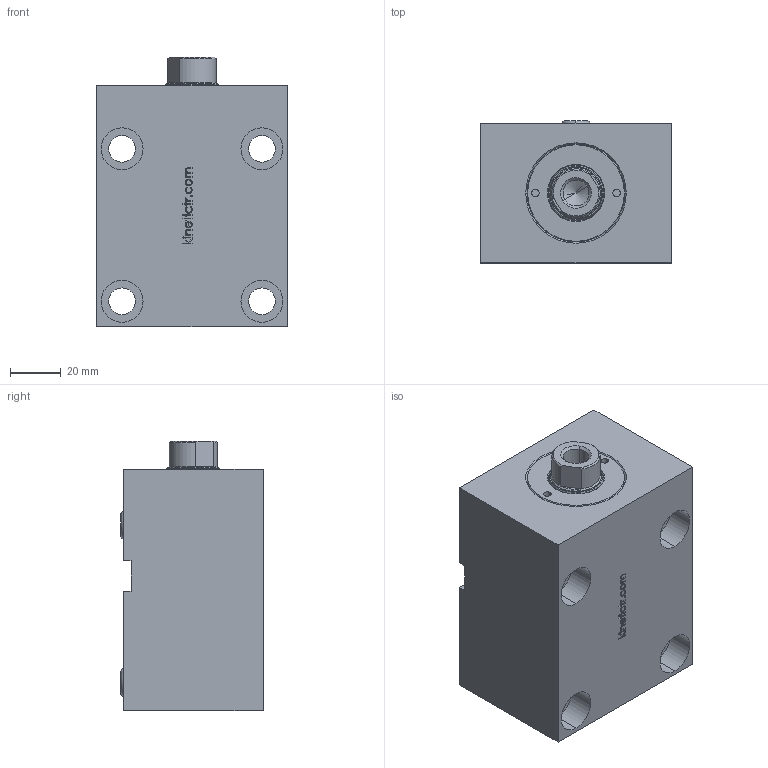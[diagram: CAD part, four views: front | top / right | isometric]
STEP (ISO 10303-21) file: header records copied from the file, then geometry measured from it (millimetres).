
FILE_DESCRIPTION (( 'STEP AP214' ), '1' );
FILE_NAME ('KBZ_11_32_20_45.STEP', '2019-09-15T15:05:29', ( '' ), ( '' ), 'SwSTEP 2.0', 'SolidWorks 2018', '' );
FILE_SCHEMA (( 'AUTOMOTIVE_DESIGN' ));
Length unit declared in the file: millimetre
Products named in the file (6): KBZ_11_32_20_45; KBZ_11_32_ON_kapak_W; KBZ_11_20_MIL_W; kbz_11_32_20_govde_W; K06-20X25X4_3X6; KO-6X2_5
Assembly tree (6 placements, depth 2):
  KBZ_11_32_20_45
    kbz_11_32_20_govde_W
    KBZ_11_20_MIL_W
    KBZ_11_32_ON_kapak_W
    K06-20X25X4_3X6
    KO-6X2_5  x2
Bounding box: 75 x 56 x 106 mm (x, y, z)
Volume: 358204.8 mm3; surface area: 55815.8 mm2
Topology: 6 solids, 6 shells, 325 faces, 785 edges, 504 vertices
Faces by surface type: plane 137, bspline 77, cylinder 62, cone 49
Entity records: 12988 total; most frequent: CARTESIAN_POINT 5553, ORIENTED_EDGE 1550, DIRECTION 1308, EDGE_CURVE 775, VERTEX_POINT 500, LINE 438, VECTOR 438, AXIS2_PLACEMENT_3D 435
